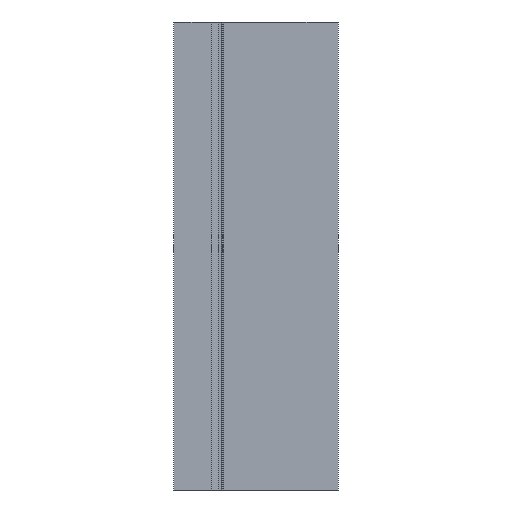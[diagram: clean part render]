
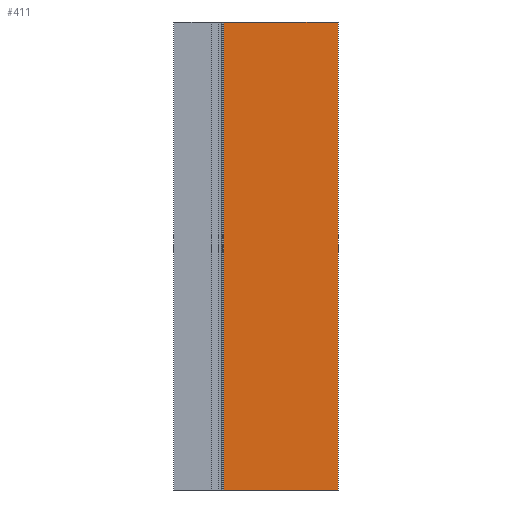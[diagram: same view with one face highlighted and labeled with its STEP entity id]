
A CAD part, left-side view. The second image highlights one B-rep face of the part: STEP entity #411.
In plain terms, the highlighted planar face has unit normal (-1, 0, 0).
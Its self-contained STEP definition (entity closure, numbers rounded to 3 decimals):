
#22 = ORIENTED_EDGE ( 'NONE', *, *, #1214, .F. ) ;
#91 = VERTEX_POINT ( 'NONE', #2034 ) ;
#115 = EDGE_CURVE ( 'NONE', #91, #234, #2135, .T. ) ;
#164 = ORIENTED_EDGE ( 'NONE', *, *, #115, .F. ) ;
#234 = VERTEX_POINT ( 'NONE', #2541 ) ;
#265 = EDGE_CURVE ( 'NONE', #3865, #234, #2636, .T. ) ;
#311 = ORIENTED_EDGE ( 'NONE', *, *, #265, .T. ) ;
#380 = EDGE_LOOP ( 'NONE', ( #311, #164, #22, #1145 ) ) ;
#411 = ADVANCED_FACE ( 'NONE', ( #3203 ), #3204, .F. ) ;
#1145 = ORIENTED_EDGE ( 'NONE', *, *, #2983, .T. ) ;
#1214 = EDGE_CURVE ( 'NONE', #2761, #91, #3910, .T. ) ;
#2034 = CARTESIAN_POINT ( 'NONE',  ( -23., 0., 94. ) ) ;
#2135 = LINE ( 'NONE', #2136, #2137 ) ;
#2136 = CARTESIAN_POINT ( 'NONE',  ( -23., 0., 94. ) ) ;
#2137 = VECTOR ( 'NONE', #2138, 1000. ) ;
#2138 = DIRECTION ( 'NONE',  ( 0., 0., -1. ) ) ;
#2541 = CARTESIAN_POINT ( 'NONE',  ( -23., 0., 0. ) ) ;
#2636 = LINE ( 'NONE', #2637, #2638 ) ;
#2637 = CARTESIAN_POINT ( 'NONE',  ( -23., 0., 0. ) ) ;
#2638 = VECTOR ( 'NONE', #2639, 1000. ) ;
#2639 = DIRECTION ( 'NONE',  ( 0., -1., 0. ) ) ;
#2761 = VERTEX_POINT ( 'NONE', #4209 ) ;
#2983 = EDGE_CURVE ( 'NONE', #2761, #3865, #4303, .T. ) ;
#3203 = FACE_OUTER_BOUND ( 'NONE', #380, .T. ) ;
#3204 = PLANE ( 'NONE',  #3205 ) ;
#3205 = AXIS2_PLACEMENT_3D ( 'NONE', #3209, #3210, #3211 ) ;
#3209 = CARTESIAN_POINT ( 'NONE',  ( -23., 0., 94. ) ) ;
#3210 = DIRECTION ( 'NONE',  ( 1., 0., 0. ) ) ;
#3211 = DIRECTION ( 'NONE',  ( 0., 0., -1. ) ) ;
#3865 = VERTEX_POINT ( 'NONE', #4744 ) ;
#3910 = LINE ( 'NONE', #3911, #3912 ) ;
#3911 = CARTESIAN_POINT ( 'NONE',  ( -23., 0., 94. ) ) ;
#3912 = VECTOR ( 'NONE', #3913, 1000. ) ;
#3913 = DIRECTION ( 'NONE',  ( 0., -1., 0. ) ) ;
#4209 = CARTESIAN_POINT ( 'NONE',  ( -23., 23., 94. ) ) ;
#4303 = LINE ( 'NONE', #4311, #4312 ) ;
#4311 = CARTESIAN_POINT ( 'NONE',  ( -23., 23., 94. ) ) ;
#4312 = VECTOR ( 'NONE', #4313, 1000. ) ;
#4313 = DIRECTION ( 'NONE',  ( 0., 0., -1. ) ) ;
#4744 = CARTESIAN_POINT ( 'NONE',  ( -23., 23., 0. ) ) ;
